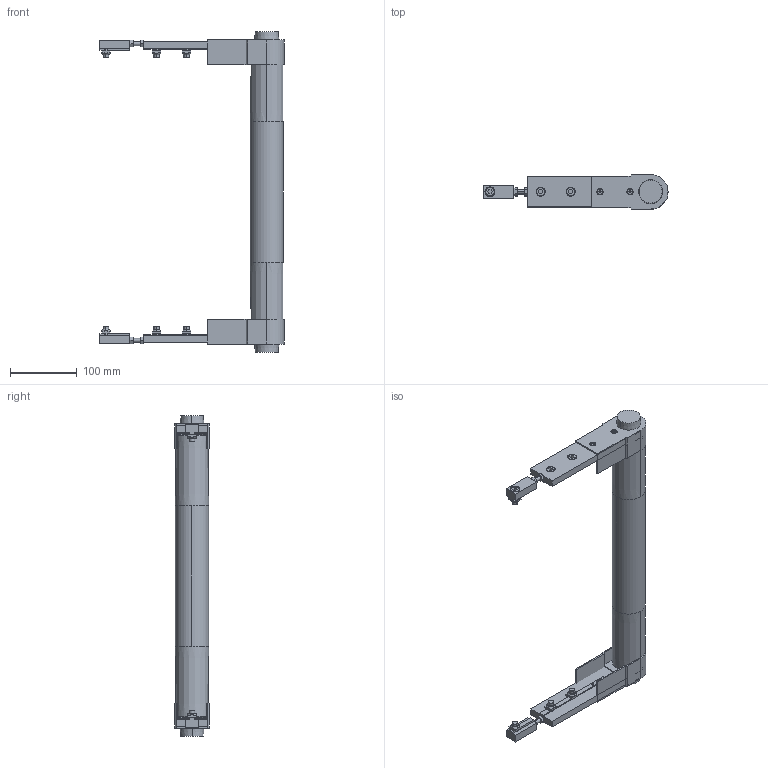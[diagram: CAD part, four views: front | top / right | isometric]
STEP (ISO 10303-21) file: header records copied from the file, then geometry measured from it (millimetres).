
FILE_DESCRIPTION (( 'STEP AP203' ), '1' );
FILE_NAME ('084.050.KIS.STEP', '2014-10-02T09:11:33', ( '' ), ( '' ), 'SwSTEP 2.0', 'SolidWorks 2012', '' );
FILE_SCHEMA (( 'CONFIG_CONTROL_DESIGN' ));
Length unit declared in the file: millimetre
Products named in the file (1): 084.050.KIS
Bounding box: 276 x 52 x 480 mm (x, y, z)
Volume: 622288.5 mm3; surface area: 381183.9 mm2
Topology: 35 solids, 37 shells, 820 faces, 2018 edges, 1308 vertices
Faces by surface type: plane 410, cylinder 242, cone 84, torus 76, sphere 8
Entity records: 24929 total; most frequent: CARTESIAN_POINT 4799, DIRECTION 4418, ORIENTED_EDGE 3992, EDGE_CURVE 1996, AXIS2_PLACEMENT_3D 1669, VERTEX_POINT 1298, LINE 1080, VECTOR 1080
